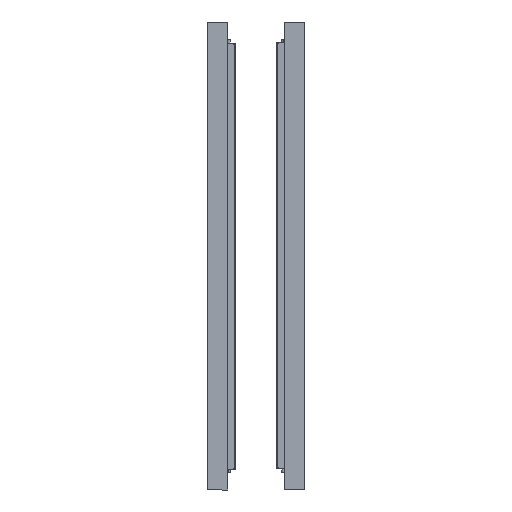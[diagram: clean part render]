
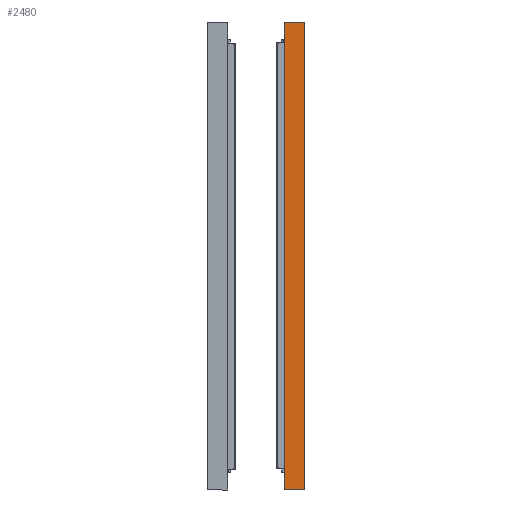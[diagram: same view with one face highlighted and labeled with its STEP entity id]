
A CAD part, left-side view. The second image highlights one B-rep face of the part: STEP entity #2480.
In plain terms, the highlighted planar face has unit normal (-1, 0, 0).
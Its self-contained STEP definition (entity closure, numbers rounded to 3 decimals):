
#255 = VECTOR ( 'NONE', #4913, 1000. ) ;
#276 = VERTEX_POINT ( 'NONE', #354 ) ;
#299 = VECTOR ( 'NONE', #4911, 1000. ) ;
#354 = CARTESIAN_POINT ( 'NONE',  ( -37.6, -17.1, 0. ) ) ;
#417 = DIRECTION ( 'NONE',  ( 0., 1., 0. ) ) ;
#736 = EDGE_CURVE ( 'NONE', #276, #3406, #3067, .T. ) ;
#858 = ORIENTED_EDGE ( 'NONE', *, *, #7728, .F. ) ;
#1067 = CARTESIAN_POINT ( 'NONE',  ( -37.6, -38.6, -497.5 ) ) ;
#1160 = ORIENTED_EDGE ( 'NONE', *, *, #1842, .F. ) ;
#1360 = DIRECTION ( 'NONE',  ( 0., 0., 1. ) ) ;
#1618 = VECTOR ( 'NONE', #417, 1000. ) ;
#1797 = CARTESIAN_POINT ( 'NONE',  ( -37.6, -38.6, -995. ) ) ;
#1842 = EDGE_CURVE ( 'NONE', #3130, #7747, #7315, .T. ) ;
#2138 = CARTESIAN_POINT ( 'NONE',  ( -37.6, -60.1, -995. ) ) ;
#2480 = ADVANCED_FACE ( 'NONE', ( #6590 ), #4594, .T. ) ;
#2609 = LINE ( 'NONE', #6961, #6434 ) ;
#2928 = DIRECTION ( 'NONE',  ( 0., 1., 0. ) ) ;
#3067 = LINE ( 'NONE', #5509, #299 ) ;
#3130 = VERTEX_POINT ( 'NONE', #2138 ) ;
#3277 = AXIS2_PLACEMENT_3D ( 'NONE', #1067, #6463, #2928 ) ;
#3406 = VERTEX_POINT ( 'NONE', #6156 ) ;
#3807 = CARTESIAN_POINT ( 'NONE',  ( -37.6, -17.1, -995. ) ) ;
#4162 = ORIENTED_EDGE ( 'NONE', *, *, #736, .F. ) ;
#4594 = PLANE ( 'NONE',  #3277 ) ;
#4911 = DIRECTION ( 'NONE',  ( 0., -1., 0. ) ) ;
#4913 = DIRECTION ( 'NONE',  ( 0., 0., -1. ) ) ;
#5509 = CARTESIAN_POINT ( 'NONE',  ( -37.6, -38.6, 0. ) ) ;
#5513 = LINE ( 'NONE', #7262, #255 ) ;
#6144 = EDGE_CURVE ( 'NONE', #3406, #3130, #5513, .T. ) ;
#6156 = CARTESIAN_POINT ( 'NONE',  ( -37.6, -60.1, 0. ) ) ;
#6434 = VECTOR ( 'NONE', #1360, 1000. ) ;
#6463 = DIRECTION ( 'NONE',  ( -1., 0., 0. ) ) ;
#6590 = FACE_OUTER_BOUND ( 'NONE', #7057, .T. ) ;
#6961 = CARTESIAN_POINT ( 'NONE',  ( -37.6, -17.1, -497.5 ) ) ;
#7057 = EDGE_LOOP ( 'NONE', ( #4162, #858, #1160, #7306 ) ) ;
#7262 = CARTESIAN_POINT ( 'NONE',  ( -37.6, -60.1, -497.5 ) ) ;
#7306 = ORIENTED_EDGE ( 'NONE', *, *, #6144, .F. ) ;
#7315 = LINE ( 'NONE', #1797, #1618 ) ;
#7728 = EDGE_CURVE ( 'NONE', #7747, #276, #2609, .T. ) ;
#7747 = VERTEX_POINT ( 'NONE', #3807 ) ;
